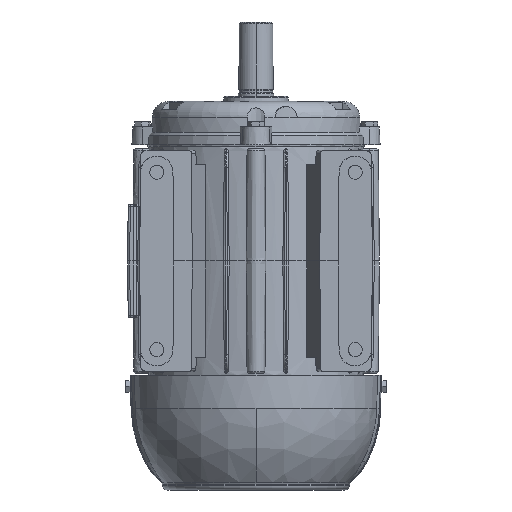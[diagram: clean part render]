
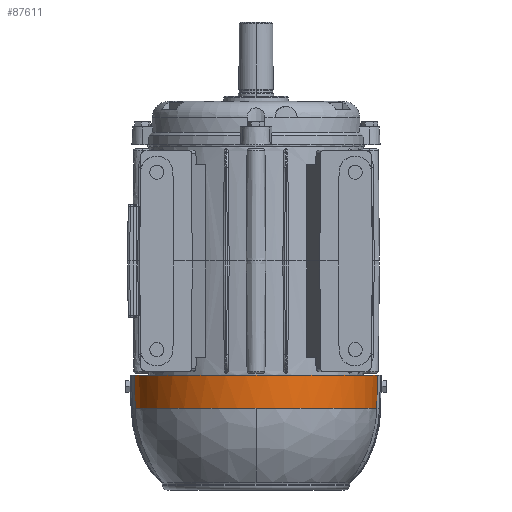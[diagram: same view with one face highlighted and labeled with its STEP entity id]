
A CAD part, front view. The second image highlights one B-rep face of the part: STEP entity #87611.
In plain terms, the highlighted conical face has half-angle 1.5 degrees and reference radius 86.139 mm.
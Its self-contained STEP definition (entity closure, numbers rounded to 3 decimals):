
#2207 = VERTEX_POINT ( 'NONE', #9761 ) ;
#5617 = EDGE_CURVE ( 'NONE', #47438, #2207, #91677, .T. ) ;
#6301 = VERTEX_POINT ( 'NONE', #86987 ) ;
#6541 = CARTESIAN_POINT ( 'NONE',  ( 15.551, -13.515, -85.278 ) ) ;
#8680 = DIRECTION ( 'NONE',  ( 1., 0., 0. ) ) ;
#9761 = CARTESIAN_POINT ( 'NONE',  ( 0., -13.503, 85.693 ) ) ;
#10117 = DIRECTION ( 'NONE',  ( 0., 0., -1. ) ) ;
#10311 = CIRCLE ( 'NONE', #27263, 86.139 ) ;
#16375 = CARTESIAN_POINT ( 'NONE',  ( 23.326, 0., 0. ) ) ;
#16516 = VERTEX_POINT ( 'NONE', #88971 ) ;
#18185 = EDGE_CURVE ( 'NONE', #6301, #46896, #10311, .T. ) ;
#21389 = CARTESIAN_POINT ( 'NONE',  ( 23.326, -13.521, -85.071 ) ) ;
#27263 = AXIS2_PLACEMENT_3D ( 'NONE', #16375, #8680, #31557 ) ;
#30198 = AXIS2_PLACEMENT_3D ( 'NONE', #31736, #91395, #10117 ) ;
#31557 = DIRECTION ( 'NONE',  ( 0., 0., -1. ) ) ;
#31736 = CARTESIAN_POINT ( 'NONE',  ( 23.326, 0., 0. ) ) ;
#36185 = AXIS2_PLACEMENT_3D ( 'NONE', #91904, #84460, #69571 ) ;
#36530 = CARTESIAN_POINT ( 'NONE',  ( 7.775, -13.509, -85.486 ) ) ;
#41081 = ORIENTED_EDGE ( 'NONE', *, *, #83819, .T. ) ;
#41963 = CARTESIAN_POINT ( 'NONE',  ( 7.775, -13.509, 85.486 ) ) ;
#44552 = DIRECTION ( 'NONE',  ( 0., 0., -1. ) ) ;
#46896 = VERTEX_POINT ( 'NONE', #63752 ) ;
#47438 = VERTEX_POINT ( 'NONE', #86047 ) ;
#49003 = EDGE_CURVE ( 'NONE', #47438, #6301, #76095, .T. ) ;
#49662 = CONICAL_SURFACE ( 'NONE', #36185, 86.139, 0.026 ) ;
#59110 = ORIENTED_EDGE ( 'NONE', *, *, #18185, .F. ) ;
#61047 = B_SPLINE_CURVE_WITH_KNOTS ( 'NONE', 3,
 ( #64854, #36530, #6541, #21389 ),
 .UNSPECIFIED., .F., .F.,
 ( 4, 4 ),
 ( 0., 0.023 ),
 .UNSPECIFIED. ) ;
#63752 = CARTESIAN_POINT ( 'NONE',  ( 23.326, -13.521, -85.071 ) ) ;
#64854 = CARTESIAN_POINT ( 'NONE',  ( 0., -13.503, -85.693 ) ) ;
#66346 = ORIENTED_EDGE ( 'NONE', *, *, #93984, .T. ) ;
#69571 = DIRECTION ( 'NONE',  ( 0., 0., 1. ) ) ;
#73851 = CARTESIAN_POINT ( 'NONE',  ( 0., 0., 0. ) ) ;
#75486 = ORIENTED_EDGE ( 'NONE', *, *, #5617, .T. ) ;
#76095 = CIRCLE ( 'NONE', #30198, 86.139 ) ;
#76130 = EDGE_LOOP ( 'NONE', ( #41081, #66346, #59110, #78053, #75486 ) ) ;
#76439 = CARTESIAN_POINT ( 'NONE',  ( 23.326, -13.521, 85.071 ) ) ;
#76470 = AXIS2_PLACEMENT_3D ( 'NONE', #73851, #88728, #44552 ) ;
#76755 = CARTESIAN_POINT ( 'NONE',  ( 15.551, -13.515, 85.278 ) ) ;
#78053 = ORIENTED_EDGE ( 'NONE', *, *, #49003, .F. ) ;
#78264 = CIRCLE ( 'NONE', #76470, 86.75 ) ;
#78677 = CARTESIAN_POINT ( 'NONE',  ( 0., -13.503, 85.693 ) ) ;
#83819 = EDGE_CURVE ( 'NONE', #2207, #16516, #78264, .T. ) ;
#84460 = DIRECTION ( 'NONE',  ( -1., 0., 0. ) ) ;
#86047 = CARTESIAN_POINT ( 'NONE',  ( 23.326, -13.521, 85.071 ) ) ;
#86987 = CARTESIAN_POINT ( 'NONE',  ( 23.326, -86.139, 0. ) ) ;
#87611 = ADVANCED_FACE ( 'NONE', ( #91243 ), #49662, .T. ) ;
#88728 = DIRECTION ( 'NONE',  ( 1., 0., 0. ) ) ;
#88971 = CARTESIAN_POINT ( 'NONE',  ( 0., -13.503, -85.693 ) ) ;
#91243 = FACE_OUTER_BOUND ( 'NONE', #76130, .T. ) ;
#91395 = DIRECTION ( 'NONE',  ( 1., 0., 0. ) ) ;
#91677 = B_SPLINE_CURVE_WITH_KNOTS ( 'NONE', 3,
 ( #76439, #76755, #41963, #78677 ),
 .UNSPECIFIED., .F., .F.,
 ( 4, 4 ),
 ( 0., 0.023 ),
 .UNSPECIFIED. ) ;
#91904 = CARTESIAN_POINT ( 'NONE',  ( 23.326, 0., 0. ) ) ;
#93984 = EDGE_CURVE ( 'NONE', #16516, #46896, #61047, .T. ) ;
